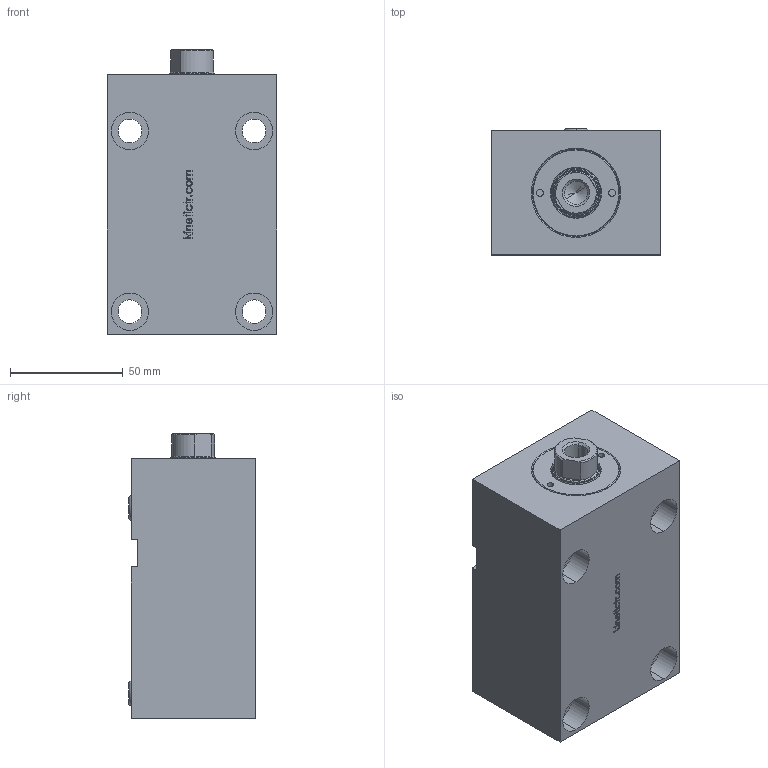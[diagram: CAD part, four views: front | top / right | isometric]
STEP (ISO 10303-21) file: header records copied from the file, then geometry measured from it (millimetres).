
FILE_DESCRIPTION (( 'STEP AP214' ), '1' );
FILE_NAME ('KBZ_11_32_20_65.STEP', '2019-09-15T15:07:25', ( '' ), ( '' ), 'SwSTEP 2.0', 'SolidWorks 2018', '' );
FILE_SCHEMA (( 'AUTOMOTIVE_DESIGN' ));
Length unit declared in the file: millimetre
Products named in the file (6): KBZ_11_20_MIL_W; kbz_11_32_20_govde_W; K06-20X25X4_3X6; KBZ_11_32_20_65; KO-6X2_5; KBZ_11_32_ON_kapak_W
Assembly tree (6 placements, depth 2):
  KBZ_11_32_20_65
    kbz_11_32_20_govde_W
    KBZ_11_20_MIL_W
    KBZ_11_32_ON_kapak_W
    K06-20X25X4_3X6
    KO-6X2_5  x2
Bounding box: 75 x 56 x 126 mm (x, y, z)
Volume: 440704.8 mm3; surface area: 61015.8 mm2
Topology: 6 solids, 6 shells, 325 faces, 785 edges, 504 vertices
Faces by surface type: plane 137, bspline 77, cylinder 62, cone 49
Entity records: 12988 total; most frequent: CARTESIAN_POINT 5553, ORIENTED_EDGE 1550, DIRECTION 1308, EDGE_CURVE 775, VERTEX_POINT 500, LINE 438, VECTOR 438, AXIS2_PLACEMENT_3D 435
